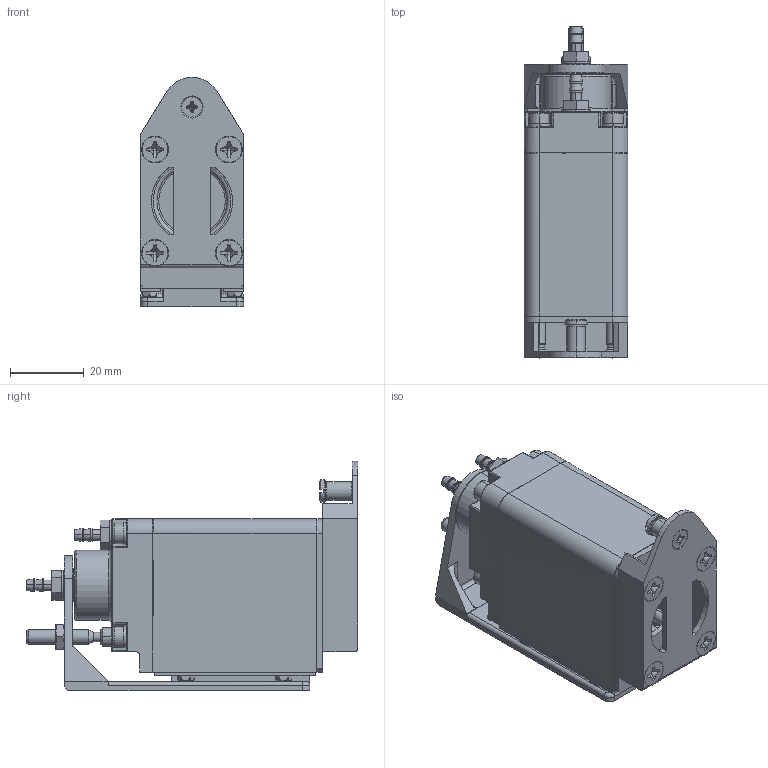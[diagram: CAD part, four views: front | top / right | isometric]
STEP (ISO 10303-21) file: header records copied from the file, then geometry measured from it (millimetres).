
FILE_DESCRIPTION (( 'STEP AP214' ), '1' );
FILE_NAME ('GT-NY10GR.STEP', '2019-11-27T01:53:18', ( '微软用户' ), ( '微软中国' ), 'SwSTEP 2.0', 'SolidWorks 2016', '' );
FILE_SCHEMA (( 'AUTOMOTIVE_DESIGN' ));
Length unit declared in the file: millimetre
Products named in the file (1): GT-NY10GR
Bounding box: 28 x 89.8 x 62 mm (x, y, z)
Surface area: 29006 mm2 (no closed solid volume)
Topology: 0 solids, 112 shells, 951 faces, 2558 edges, 1764 vertices
Faces by surface type: plane 431, cylinder 308, bspline 101, cone 74, torus 29, sphere 8
Entity records: 44432 total; most frequent: CARTESIAN_POINT 15074, ORIENTED_EDGE 4612, DIRECTION 4404, EDGE_CURVE 2540, VERTEX_POINT 1764, AXIS2_PLACEMENT_3D 1653, LINE 1098, VECTOR 1098
